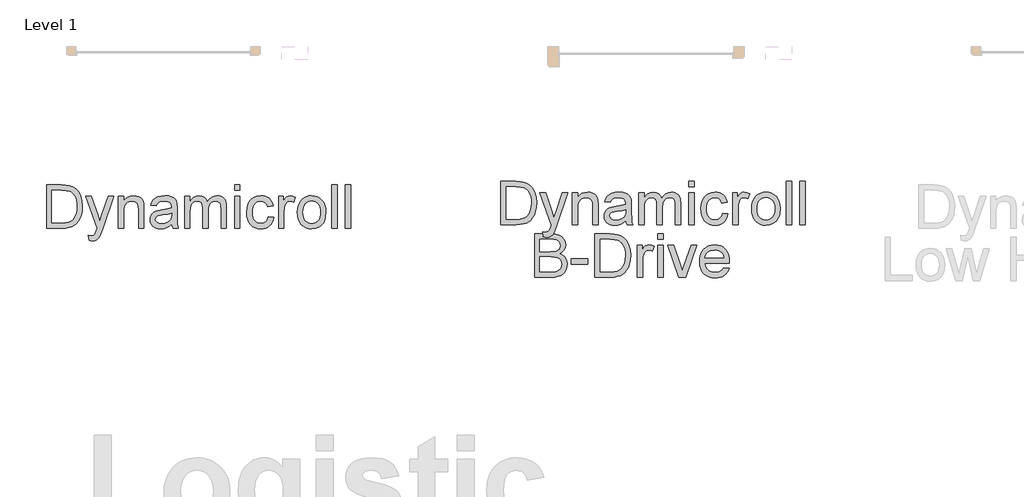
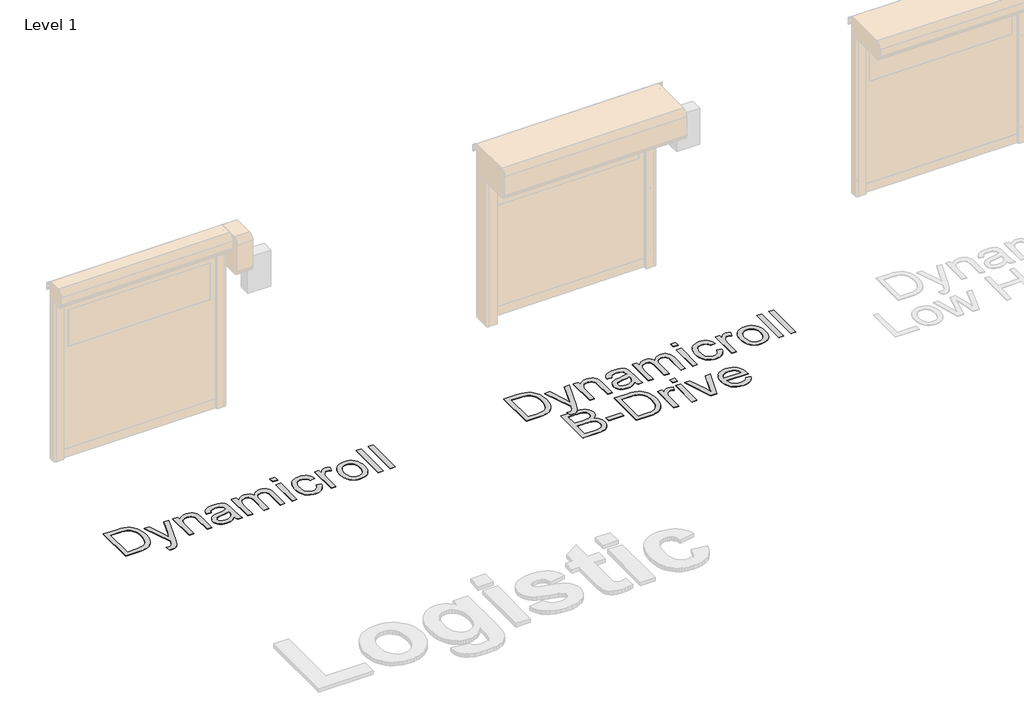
# One storey, part 8 of 17: 2 proxies.
"""IFC4 building model written with IfcOpenShell, lengths in millimetres."""

from ifc_helpers import new_model, si_unit, origin, origin_with_axes, place, context, project, spatial, polyline, outline, extrude, element, save

model = new_model("IFC4")

# Units and contexts
model_context = context("Model", 3, world=origin())
ifc_project = project(units=[si_unit("LENGTHUNIT", "METRE", prefix="MILLI")], contexts=[model_context])

# Site, building, storey
site = spatial("IfcSite", under=ifc_project)
building = spatial("IfcBuilding", under=site)
storey = spatial("IfcBuildingStorey", under=building, Name="Level 1", Elevation=0.0)

# Proxies
placement = place(None, origin())
element("IfcBuildingElementProxy", 1, Name="500mm", ObjectType="500mm", at=placement, inside=storey, context=model_context, shape_type="SweptSolid", body=[
    extrude(outline(polyline([(5402.5904997, 30395.6464997), (5402.5904997, 30897.9280504), (5575.8629195, 30897.9280504), (5627.6423103, 30896.1192973), (5665.5034989, 30890.6930378), (5705.5413228, 30876.7441789), (5739.3251526, 30854.7632296), (5757.9415144, 30836.7983256), (5774.0593444, 30816.5035022), (5787.6786424, 30793.8787594), (5798.7994085, 30768.9240974), (5813.6066588, 30712.9447205), (5818.5424089, 30649.4850763), (5815.2008142, 30595.5750356), (5805.1760298, 30548.1335867), (5789.908927, 30507.7432093), (5770.8403769, 30474.9863833), (5748.8900845, 30449.1273447), (5724.9777548, 30429.4303296), (5697.5245609, 30414.8223487), (5664.951676, 30404.2304129), (5627.1977862, 30397.792478), (5584.201578, 30395.6464997), (5402.5904997, 30395.6464997)]), holes=[polyline([(5465.3756936, 30458.4316935), (5576.4760561, 30458.4316935), (5622.4306487, 30460.7002991), (5657.2874677, 30467.5061161), (5683.5910304, 30478.4506054), (5703.8858538, 30493.1352284), (5725.6981904, 30520.3125108), (5742.0842676, 30555.4912266), (5752.3389782, 30598.8246599), (5755.7572151, 30650.466095), (5754.0825856, 30686.9170694), (5749.0586971, 30718.8921461), (5740.6855496, 30746.3913252), (5728.9631431, 30769.4146068), (5714.8418394, 30788.4831569), (5699.2720004, 30804.1181416), (5682.253626, 30816.3195612), (5663.7867163, 30825.0874154), (5627.6729671, 30832.6289963), (5574.7592735, 30835.1428566), (5465.3756936, 30835.1428566), (5465.3756936, 30458.4316935)])]), origin_with_axes(), (0.0, 0.0, 1.0), 5.0),
    extrude(outline(polyline([(5897.0239012, 30254.3798135), (5889.175752, 30314.8350881), (5921.0588583, 30309.3168581), (5937.8281459, 30311.0489692), (5950.8572999, 30316.2453024), (5961.0047116, 30324.5379757), (5969.1287723, 30335.5591071), (5986.2965987, 30381.7896112), (5991.201692, 30396.9954003), (5857.7831551, 30764.5095135), (5924.0019142, 30764.5095135), (5994.7578846, 30559.7218695), (6019.4059783, 30477.8068119), (6044.054072, 30550.1569376), (6116.7720797, 30764.5095135), (6182.5003295, 30764.5095135), (6054.1095132, 30386.8173318), (6020.754879, 30304.9022742), (6003.679023, 30278.7519957), (5984.3345614, 30260.6338074), (5961.8631029, 30250.0572001), (5935.4062561, 30246.5316643), (5917.2267541, 30248.4937016), (5897.0239012, 30254.3798135)])), origin_with_axes(), (0.0, 0.0, 1.0), 5.0),
    extrude(outline(polyline([(6234.4943182, 30395.6464997), (6234.4943182, 30764.5095135), (6297.279512, 30764.5095135), (6297.279512, 30713.0060342), (6319.0918486, 30738.9723717), (6345.2881124, 30757.5197556), (6375.8683032, 30768.6481859), (6410.8324212, 30772.3576627), (6441.780494, 30769.3686215), (6470.1227361, 30760.4014979), (6493.7591543, 30746.5752662), (6510.5897555, 30729.008901), (6522.0094258, 30707.7483873), (6529.413051, 30682.8397106), (6532.7239889, 30622.1391814), (6532.7239889, 30395.6464997), (6469.9387951, 30395.6464997), (6469.9387951, 30613.6778955), (6468.1300419, 30646.1434816), (6462.7037825, 30669.2280767), (6452.6943265, 30685.7674381), (6437.1359838, 30698.5973227), (6417.193714, 30706.8286823), (6394.0324767, 30709.5724689), (6374.9677588, 30708.031963), (6357.2596056, 30703.4104455), (6340.9080174, 30695.7079162), (6325.912994, 30684.9243752), (6313.3858456, 30669.8335492), (6304.4378825, 30649.2091648), (6299.0691046, 30623.0512221), (6297.279512, 30591.3597211), (6297.279512, 30395.6464997), (6234.4943182, 30395.6464997)])), origin_with_axes(), (0.0, 0.0, 1.0), 5.0),
    extrude(outline(polyline([(6854.4981074, 30442.7353951), (6824.5003963, 30417.0143122), (6793.6136372, 30400.1837109), (6761.1327227, 30390.8946906), (6726.3525457, 30387.7983504), (6698.3973462, 30389.660753), (6673.8833761, 30395.2479608), (6652.8106356, 30404.5599738), (6635.1791246, 30417.596792), (6621.2570903, 30433.530681), (6611.3127801, 30451.5339061), (6605.346194, 30471.6064675), (6603.357332, 30493.748365), (6606.3617016, 30519.7760162), (6615.3748105, 30543.4124344), (6629.2776842, 30563.6459441), (6646.9513484, 30579.4648699), (6667.7213527, 30591.4210348), (6690.9132468, 30600.0662617), (6745.2371548, 30609.5085662), (6809.432563, 30619.4413801), (6854.1302254, 30631.0909766), (6854.4981074, 30645.0704924), (6850.1754939, 30673.0908377), (6837.2076536, 30691.4236238), (6824.1325143, 30699.3637435), (6808.2062896, 30705.0352576), (6767.8005838, 30709.5724689), (6730.3992477, 30706.5527708), (6704.279626, 30697.4936767), (6686.4680061, 30680.7397175), (6673.9906751, 30654.6354243), (6611.2054812, 30662.4835735), (6622.1039853, 30696.8192264), (6638.3674352, 30723.7972394), (6661.5133441, 30744.4292879), (6693.0592251, 30759.7270476), (6731.6408494, 30769.2000089), (6775.8939877, 30772.3576627), (6818.3383729, 30769.5678909), (6851.9842471, 30761.1985755), (6877.3527763, 30748.6139456), (6894.9651268, 30733.1782302), (6906.6453802, 30714.0943517), (6914.2176179, 30690.5652325), (6917.2833012, 30635.6281879), (6917.2833012, 30557.5145775), (6920.4716118, 30448.437566), (6925.1927641, 30421.4748814), (6932.9795997, 30395.6464997), (6870.1944058, 30395.6464997), (6860.1389646, 30417.4741647), (6854.4981074, 30442.7353951)]), holes=[polyline([(6854.4981074, 30568.3057827), (6812.3143052, 30557.8518027), (6753.2079314, 30549.0532917), (6699.1905917, 30538.8752231), (6685.1344338, 30531.916122), (6674.7264391, 30522.3205333), (6668.2885041, 30510.824221), (6666.1425258, 30498.162949), (6670.8176929, 30479.4929377), (6684.8431939, 30464.1951781), (6707.9124607, 30453.9864527), (6739.7189249, 30450.5835443), (6773.4414411, 30454.3390063), (6803.2398827, 30465.6053924), (6827.397467, 30482.2060675), (6844.1974115, 30501.9643963), (6851.6470219, 30522.3205333), (6854.1302254, 30550.5248196), (6854.4981074, 30568.3057827)])]), origin_with_axes(), (0.0, 0.0, 1.0), 5.0),
    extrude(outline(polyline([(7003.6129427, 30395.6464997), (7003.6129427, 30764.5095135), (7066.3981366, 30764.5095135), (7066.3981366, 30703.8089843), (7085.2827457, 30731.6913738), (7109.5629574, 30753.5343673), (7138.4110371, 30767.6518389), (7170.9992505, 30772.3576627), (7205.9173833, 30767.5598684), (7233.9070717, 30753.1664853), (7254.8150318, 30730.1278754), (7268.4879793, 30699.3944004), (7291.373305, 30731.3158276), (7317.4775983, 30754.1168471), (7346.800859, 30767.7974588), (7379.3430871, 30772.3576627), (7404.477858, 30770.4607712), (7426.5392814, 30764.7700966), (7445.5273573, 30755.2856389), (7461.4420857, 30742.0073981), (7474.0228836, 30724.7820901), (7483.0091677, 30703.4564307), (7488.4009382, 30678.0304199), (7490.198195, 30648.5040577), (7490.198195, 30395.6464997), (7427.4130012, 30395.6464997), (7427.4130012, 30621.5260447), (7425.9568016, 30652.8419995), (7421.5882029, 30673.949229), (7413.4028285, 30688.4039257), (7400.4963019, 30699.7622823), (7383.8956268, 30707.1199223), (7364.6278073, 30709.5724689), (7346.8353479, 30708.0013062), (7330.6140512, 30703.2878181), (7315.9639172, 30695.4320047), (7302.8849458, 30684.4338659), (7292.1282296, 30669.9715049), (7284.4448608, 30651.7230251), (7279.8348396, 30629.6884265), (7278.2981658, 30603.8677089), (7278.2981658, 30395.6464997), (7215.512972, 30395.6464997), (7215.512972, 30628.5158026), (7211.8801373, 30664.0164152), (7200.9816332, 30689.3389592), (7192.5548362, 30698.1911197), (7181.8057842, 30704.5140915), (7153.3409148, 30709.5724689), (7129.1526736, 30706.2002173), (7106.8651561, 30696.0834624), (7088.4710563, 30679.4674589), (7075.9630685, 30656.5974616), (7068.7893696, 30624.8676395), (7066.3981366, 30581.6721619), (7066.3981366, 30395.6464997), (7003.6129427, 30395.6464997)])), origin_with_axes(), (0.0, 0.0, 1.0), 5.0),
    extrude(outline(polyline([(7584.3759858, 30835.1428566), (7584.3759858, 30897.9280504), (7647.1611796, 30897.9280504), (7647.1611796, 30835.1428566), (7584.3759858, 30835.1428566)])), origin_with_axes(), (0.0, 0.0, 1.0), 5.0),
    extrude(outline(polyline([(7584.3759858, 30395.6464997), (7584.3759858, 30764.5095135), (7647.1611796, 30764.5095135), (7647.1611796, 30395.6464997), (7584.3759858, 30395.6464997)])), origin_with_axes(), (0.0, 0.0, 1.0), 5.0),
    extrude(outline(polyline([(7976.7834473, 30529.0650366), (8039.5686412, 30521.2168874), (8032.7398316, 30491.5908904), (8022.0635896, 30465.3754662), (8007.539915, 30442.5706146), (7989.1688078, 30423.1763356), (7967.7243532, 30407.6984671), (7943.9806361, 30396.6428467), (7917.9376565, 30390.0094745), (7889.5954145, 30387.7983504), (7854.3822097, 30390.8831943), (7822.8095039, 30400.1377257), (7794.877297, 30415.5619448), (7770.585589, 30437.1558515), (7750.9230628, 30464.5132427), (7736.8784012, 30497.2279156), (7728.4516043, 30535.29987), (7725.6426719, 30578.7291059), (7730.4404663, 30634.601184), (7744.8338494, 30683.0236516), (7755.6863682, 30703.9737648), (7769.0527474, 30722.126442), (7784.9329868, 30737.4816832), (7803.3270866, 30750.0394884), (7844.3306006, 30766.7781191), (7888.7370231, 30772.3576627), (7916.592588, 30770.4416107), (7941.7886725, 30764.6934545), (7964.3252768, 30755.1131942), (7984.2024009, 30741.7008298), (8001.0828195, 30724.7629296), (8014.6293076, 30704.606062), (8024.841865, 30681.2302268), (8031.7204919, 30654.6354243), (7968.9352981, 30646.787275), (7957.5462846, 30674.1791553), (7939.8113068, 30693.8148568), (7916.7113832, 30705.6330659), (7889.2275325, 30709.5724689), (7867.8942088, 30707.6334242), (7848.6532141, 30701.8162902), (7831.5045482, 30692.1210667), (7816.4482111, 30678.547754), (7804.18931, 30660.7821193), (7795.4329521, 30638.5099302), (7790.1791374, 30611.7311866), (7788.4278658, 30580.4458886), (7790.1408163, 30548.6892418), (7795.2796679, 30521.6000978), (7803.8444206, 30499.1784566), (7815.8350744, 30481.4243182), (7830.5925074, 30467.9314796), (7847.4575976, 30458.2937378), (7866.4303451, 30452.5110927), (7887.5107498, 30450.5835443), (7920.0223211, 30455.3966671), (7946.6784374, 30469.8360354), (7957.4581463, 30480.7575321), (7966.0688842, 30494.2695312), (7976.7834473, 30529.0650366)])), origin_with_axes(), (0.0, 0.0, 1.0), 5.0),
    extrude(outline(polyline([(8094.5056858, 30395.6464997), (8094.5056858, 30764.5095135), (8149.4427304, 30764.5095135), (8149.4427304, 30709.9403509), (8169.7375538, 30741.5782025), (8188.4382219, 30760.2175569), (8207.2002036, 30769.3226363), (8227.678968, 30772.3576627), (8258.9489376, 30767.5138831), (8290.7094165, 30752.9825443), (8269.7401428, 30696.6965991), (8247.6672231, 30706.3535014), (8225.5943034, 30709.5724689), (8206.84765, 30706.4761288), (8190.0936909, 30697.1871084), (8176.5586991, 30682.4105149), (8167.4689481, 30662.8514555), (8159.8353967, 30627.7800386), (8157.2908796, 30589.5203111), (8157.2908796, 30395.6464997), (8094.5056858, 30395.6464997)])), origin_with_axes(), (0.0, 0.0, 1.0), 5.0),
    extrude(outline(polyline([(8314.2538642, 30580.0780066), (8317.6491085, 30627.8490165), (8327.8348412, 30669.0134789), (8344.8110624, 30703.5713938), (8368.5777722, 30731.5227613), (8392.5054303, 30749.3880307), (8418.9162919, 30762.1489374), (8447.8103569, 30769.8054814), (8479.1876254, 30772.3576627), (8513.8260145, 30769.2498263), (8545.1458014, 30759.926317), (8573.1469862, 30744.3871348), (8597.8295688, 30722.6322797), (8617.9749402, 30695.3975158), (8632.3644911, 30663.4186069), (8640.9982217, 30626.6955532), (8643.8761319, 30585.2283545), (8638.7870976, 30521.7993672), (8632.4258048, 30495.7640518), (8623.5199948, 30473.5148553), (8612.1807988, 30454.2968532), (8598.5193476, 30437.3551209), (8582.5356413, 30422.6896584), (8564.2296799, 30410.3004658), (8523.5020774, 30393.4238793), (8479.1876254, 30387.7983504), (8444.0433985, 30390.8946906), (8412.4323717, 30400.1837109), (8384.3545448, 30415.6654116), (8359.809918, 30437.3397925), (8339.8791444, 30464.8389716), (8325.6428777, 30497.795067), (8317.1011176, 30536.2080787), (8314.2538642, 30580.0780066)]), holes=[polyline([(8377.0390581, 30580.2006339), (8378.8554754, 30549.7469025), (8384.3047275, 30523.3781941), (8393.3868142, 30501.0945086), (8406.1017357, 30482.8958462), (8421.5681079, 30468.7592141), (8438.9045469, 30458.6616198), (8458.1110528, 30452.6030632), (8479.1876254, 30450.5835443), (8500.1568991, 30452.6145595), (8519.2867629, 30458.707605), (8536.5772166, 30468.8626809), (8552.0282604, 30483.0797872), (8564.7431819, 30501.4585585), (8573.8252687, 30524.0986297), (8579.2745207, 30551.0000005), (8581.0909381, 30582.1626712), (8579.2630244, 30611.6507124), (8573.7792834, 30637.3296421), (8564.6397151, 30659.1994603), (8551.8443194, 30677.260167), (8536.3357941, 30691.3967991), (8519.0568366, 30701.4943934), (8500.0074471, 30707.55295), (8479.1876254, 30709.5724689), (8458.1110528, 30707.5606142), (8438.9045469, 30701.5250502), (8421.5681079, 30691.4657769), (8406.1017357, 30677.3827943), (8393.3868142, 30659.2377813), (8384.3047275, 30636.9924169), (8378.8554754, 30610.6467011), (8377.0390581, 30580.2006339)])]), origin_with_axes(), (0.0, 0.0, 1.0), 5.0),
    extrude(outline(polyline([(8714.509475, 30395.6464997), (8714.509475, 30897.9280504), (8777.2946688, 30897.9280504), (8777.2946688, 30395.6464997), (8714.509475, 30395.6464997)])), origin_with_axes(), (0.0, 0.0, 1.0), 5.0),
    extrude(outline(polyline([(8871.4724596, 30395.6464997), (8871.4724596, 30897.9280504), (8934.2576534, 30897.9280504), (8934.2576534, 30395.6464997), (8871.4724596, 30395.6464997)])), origin_with_axes(), (0.0, 0.0, 1.0), 5.0),
    extrude(outline(polyline([(5794.9979613, 29785.7724104), (5794.9979613, 30288.0539612), (5986.6644807, 30288.0539612), (6039.378905, 30284.3598128), (6080.5357032, 30273.2773677), (6112.0815843, 30254.5307144), (6135.9632571, 30227.8439413), (6151.0004337, 30196.4513444), (6156.0128259, 30163.5872195), (6151.7975113, 30133.3442538), (6139.1515677, 30104.9100413), (6117.9830246, 30080.0320213), (6088.1999114, 30060.4576335), (6107.1496663, 30052.379558), (6123.777166, 30041.8795928), (6138.0824107, 30028.9577377), (6150.0654003, 30013.6139928), (6166.2981933, 29977.5309004), (6171.7091243, 29935.5003825), (6168.0149759, 29900.4749509), (6156.9325308, 29867.9940364), (6140.3931695, 29840.3722299), (6120.3282723, 29819.9241223), (6095.7568207, 29805.116872), (6065.697796, 29794.4176373), (6029.1701796, 29787.9337172), (5985.1929528, 29785.7724104), (5794.9979613, 29785.7724104)]), holes=[polyline([(5857.7831551, 30084.0020812), (5972.4397103, 30084.0020812), (6012.5388477, 30085.3509818), (6039.3942334, 30089.3976838), (6062.8313822, 30098.7020326), (6079.6773119, 30112.6355632), (6089.840052, 30130.9836777), (6093.227632, 30153.5317783), (6090.0699782, 30175.420757), (6080.5970168, 30194.4893071), (6065.2379435, 30209.3731995), (6044.421954, 30218.7082051), (6012.4775341, 30223.6286268), (5963.7331697, 30225.2687673), (5857.7831551, 30225.2687673), (5857.7831551, 30084.0020812)]), polyline([(5857.7831551, 29848.5576043), (5986.5418534, 29848.5576043), (6033.1402395, 29851.0101509), (6054.7686351, 29856.4517388), (6072.5649266, 29864.6830984), (6087.0349518, 29876.4706507), (6098.6845483, 29892.5808164), (6106.3640849, 29912.29316), (6108.9239305, 29934.8872458), (6105.9195608, 29961.1294948), (6096.906452, 29983.6929238), (6081.1641682, 30001.3359312), (6057.9722741, 30012.8169151), (6025.1234777, 30019.1168943), (5980.4104868, 30021.2168874), (5857.7831551, 30021.2168874), (5857.7831551, 29848.5576043)])]), origin_with_axes(), (0.0, 0.0, 1.0), 5.0),
    extrude(outline(polyline([(6218.7980197, 29934.8872458), (6218.7980197, 29997.6724397), (6415.0017505, 29997.6724397), (6415.0017505, 29934.8872458), (6218.7980197, 29934.8872458)])), origin_with_axes(), (0.0, 0.0, 1.0), 5.0),
    extrude(outline(polyline([(6493.4832428, 29785.7724104), (6493.4832428, 30288.0539612), (6666.7556625, 30288.0539612), (6718.5350533, 30286.245208), (6756.396242, 30280.8189486), (6796.4340658, 30266.8700896), (6830.2178957, 30244.8891404), (6848.8342575, 30226.9242363), (6864.9520874, 30206.6294129), (6878.5713854, 30184.0046702), (6889.6921516, 30159.0500082), (6904.4994019, 30103.0706313), (6909.435152, 30039.6109871), (6906.0935572, 29985.7009464), (6896.0687728, 29938.2594974), (6880.80167, 29897.8691201), (6861.7331199, 29865.1122941), (6839.7828276, 29839.2532555), (6815.8704979, 29819.5562403), (6788.417304, 29804.9482594), (6755.844419, 29794.3563237), (6718.0905292, 29787.9183887), (6675.094321, 29785.7724104), (6493.4832428, 29785.7724104)]), holes=[polyline([(6556.2684366, 29848.5576043), (6667.3687991, 29848.5576043), (6713.3233917, 29850.8262099), (6748.1802108, 29857.6320268), (6774.4837734, 29868.5765162), (6794.7785968, 29883.2611392), (6816.5909334, 29910.4384216), (6832.9770106, 29945.6171373), (6843.2317213, 29988.9505707), (6846.6499581, 30040.5920058), (6844.9753286, 30077.0429801), (6839.9514401, 30109.0180569), (6831.5782926, 30136.517236), (6819.8558861, 30159.5405175), (6805.7345825, 30178.6090676), (6790.1647435, 30194.2440524), (6773.1463691, 30206.4454719), (6754.6794593, 30215.2133261), (6718.5657101, 30222.754907), (6665.6520165, 30225.2687673), (6556.2684366, 30225.2687673), (6556.2684366, 29848.5576043)])]), origin_with_axes(), (0.0, 0.0, 1.0), 5.0),
    extrude(outline(polyline([(6987.9166443, 29785.7724104), (6987.9166443, 30154.6354243), (7042.8536889, 30154.6354243), (7042.8536889, 30100.0662617), (7063.1485123, 30131.7041132), (7081.8491804, 30150.3434677), (7100.6111621, 30159.448547), (7121.0899265, 30162.4835735), (7152.3598961, 30157.6397939), (7184.120375, 30143.1084551), (7163.1511013, 30086.8225098), (7141.0781816, 30096.4794122), (7119.0052619, 30099.6983797), (7100.2586086, 30096.6020395), (7083.5046494, 30087.3130192), (7069.9696576, 30072.5364257), (7060.8799067, 30052.9773663), (7053.2463553, 30017.9059494), (7050.7018381, 29979.6462219), (7050.7018381, 29785.7724104), (6987.9166443, 29785.7724104)])), origin_with_axes(), (0.0, 0.0, 1.0), 5.0),
    extrude(outline(polyline([(7223.3611212, 30225.2687673), (7223.3611212, 30288.0539612), (7286.146315, 30288.0539612), (7286.146315, 30225.2687673), (7223.3611212, 30225.2687673)])), origin_with_axes(), (0.0, 0.0, 1.0), 5.0),
    extrude(outline(polyline([(7223.3611212, 29785.7724104), (7223.3611212, 30154.6354243), (7286.146315, 30154.6354243), (7286.146315, 29785.7724104), (7223.3611212, 29785.7724104)])), origin_with_axes(), (0.0, 0.0, 1.0), 5.0),
    extrude(outline(polyline([(7470.8230766, 29785.7724104), (7341.0833596, 30154.6354243), (7407.5473734, 30154.6354243), (7486.1514931, 29933.6609725), (7509.8185681, 29859.3488095), (7532.9951338, 29929.4916432), (7612.0897628, 30154.6354243), (7678.5537766, 30154.6354243), (7550.4082149, 29785.7724104), (7470.8230766, 29785.7724104)])), origin_with_axes(), (0.0, 0.0, 1.0), 5.0),
    extrude(outline(polyline([(7991.7439818, 29895.6464997), (8053.3029023, 29887.7983504), (8043.8644299, 29863.1425926), (8031.1226837, 29841.4145622), (8015.0776637, 29822.6142594), (7995.7293701, 29806.7416842), (7973.277072, 29794.1340616), (7947.9200391, 29785.128617), (7919.6582712, 29779.7253501), (7888.4917685, 29777.9242612), (7849.534598, 29781.0320977), (7814.8233989, 29790.355607), (7784.3581712, 29805.8947892), (7758.1389148, 29827.6496442), (7737.054678, 29855.0146997), (7721.9945088, 29887.3844832), (7712.9584073, 29924.7589946), (7709.9463735, 29967.1382341), (7712.9890641, 30010.9545125), (7722.1171362, 30049.5744578), (7737.3305895, 30082.9980699), (7758.6294242, 30111.2253488), (7784.7797027, 30133.6508221), (7814.5474874, 30149.6690173), (7847.9327785, 30159.2799345), (7884.9355759, 30162.4835735), (7920.7465888, 30159.2875987), (7953.1317007, 30149.6996742), (7982.0909115, 30133.7198), (8007.6242212, 30111.3479762), (8028.4670355, 30083.1820109), (8043.35476, 30049.8197125), (8052.2873947, 30011.2610809), (8055.2649396, 29967.5061161), (8054.8970576, 29950.5835443), (7772.7315673, 29950.5835443), (7776.3682341, 29925.5292476), (7783.5994146, 29903.5866194), (7794.4251087, 29884.7556598), (7808.8453165, 29869.0363687), (7826.0629603, 29856.643344), (7845.2809625, 29847.7911835), (7866.4993229, 29842.4798872), (7889.7180418, 29840.7094551), (7923.1339897, 29843.9897362), (7951.2769623, 29853.8305796), (7974.1469597, 29870.8451218), (7991.7439818, 29895.6464997)]), holes=[polyline([(7772.7315673, 30013.3687381), (7992.4797458, 30013.3687381), (7983.9878031, 30046.5394314), (7967.3411428, 30070.26782), (7950.2193016, 30083.1436899), (7930.7368843, 30092.3407398), (7908.8938908, 30097.8589697), (7884.6903212, 30099.6983797), (7842.3685633, 30093.8275962), (7823.955303, 30086.4891168), (7807.3737885, 30076.2152456), (7793.4594185, 30063.4811637), (7783.0475916, 30048.7620517), (7776.1383079, 30032.0579099), (7772.7315673, 30013.3687381)])]), origin_with_axes(), (0.0, 0.0, 1.0), 5.0),
])
element("IfcBuildingElementProxy", 2, Name="500mm", ObjectType="500mm", at=placement, inside=storey, context=model_context, shape_type="SweptSolid", body=[
    extrude(outline(polyline([(132.2974666, 30354.3905971), (132.2974666, 30856.6721479), (305.5698863, 30856.6721479), (357.3492772, 30854.8633947), (395.2104658, 30849.4371353), (435.2482896, 30835.4882763), (469.0321195, 30813.5073271), (487.6484813, 30795.542423), (503.7663112, 30775.2475996), (517.3856093, 30752.6228569), (528.5063754, 30727.6681949), (543.3136257, 30671.688818), (548.2493758, 30608.2291738), (544.907781, 30554.3191331), (534.8829967, 30506.8776841), (519.6158939, 30466.4873067), (500.5473438, 30433.7304807), (478.5970514, 30407.8714422), (454.6847217, 30388.174427), (427.2315278, 30373.5664461), (394.6586428, 30362.9745103), (356.9047531, 30356.5365754), (313.9085449, 30354.3905971), (132.2974666, 30354.3905971)]), holes=[polyline([(195.0826604, 30417.175791), (306.183023, 30417.175791), (352.1376156, 30419.4443966), (386.9944346, 30426.2502135), (413.2979973, 30437.1947029), (433.5928207, 30451.8793258), (455.4051573, 30479.0566082), (471.7912345, 30514.235324), (482.0459451, 30557.5687574), (485.464182, 30609.2101924), (483.7895525, 30645.6611668), (478.765664, 30677.6362436), (470.3925165, 30705.1354227), (458.67011, 30728.1587042), (444.5488063, 30747.2272543), (428.9789673, 30762.8622391), (411.9605929, 30775.0636586), (393.4936832, 30783.8315128), (357.379934, 30791.3730937), (304.4662403, 30793.886954), (195.0826604, 30793.886954), (195.0826604, 30417.175791)])]), origin_with_axes(), (0.0, 0.0, 1.0), 5.0),
    extrude(outline(polyline([(626.7308681, 30213.123911), (618.8827189, 30273.5791855), (650.7658251, 30268.0609556), (667.5351128, 30269.7930666), (680.5642668, 30274.9893998), (690.7116785, 30283.2820731), (698.8357392, 30294.3032046), (716.0035656, 30340.5337086), (720.9086589, 30355.7394978), (587.490122, 30723.253611), (653.7088811, 30723.253611), (724.4648515, 30518.465967), (749.1129452, 30436.5509094), (773.7610389, 30508.9010351), (846.4790466, 30723.253611), (912.2072964, 30723.253611), (783.8164801, 30345.5614292), (750.4618458, 30263.6463716), (733.3859899, 30237.4960932), (714.0415283, 30219.3779049), (691.5700698, 30208.8012975), (665.113223, 30205.2757617), (646.933721, 30207.2377991), (626.7308681, 30213.123911)])), origin_with_axes(), (0.0, 0.0, 1.0), 5.0),
    extrude(outline(polyline([(964.201285, 30354.3905971), (964.201285, 30723.253611), (1026.9864789, 30723.253611), (1026.9864789, 30671.7501316), (1048.7988155, 30697.7164691), (1074.9950792, 30716.263853), (1105.5752701, 30727.3922834), (1140.5393881, 30731.1017602), (1171.4874609, 30728.112719), (1199.8297029, 30719.1455953), (1223.4661211, 30705.3193637), (1240.2967224, 30687.7529984), (1251.7163927, 30666.4924848), (1259.1200178, 30641.583808), (1262.4309558, 30580.8832788), (1262.4309558, 30354.3905971), (1199.6457619, 30354.3905971), (1199.6457619, 30572.4219929), (1197.8370088, 30604.887579), (1192.4107494, 30627.9721742), (1182.4012934, 30644.5115356), (1166.8429507, 30657.3414202), (1146.9006809, 30665.5727798), (1123.7394436, 30668.3165663), (1104.6747256, 30666.7760605), (1086.9665725, 30662.1545429), (1070.6149842, 30654.4520136), (1055.6199608, 30643.6684727), (1043.0928125, 30628.5776467), (1034.1448494, 30607.9532623), (1028.7760715, 30581.7953196), (1026.9864789, 30550.1038186), (1026.9864789, 30354.3905971), (964.201285, 30354.3905971)])), origin_with_axes(), (0.0, 0.0, 1.0), 5.0),
    extrude(outline(polyline([(1584.2050742, 30401.4794925), (1554.2073632, 30375.7584097), (1523.320604, 30358.9278084), (1490.8396895, 30349.638788), (1456.0595126, 30346.5424479), (1428.1043131, 30348.4048505), (1403.590343, 30353.9920583), (1382.5176025, 30363.3040713), (1364.8860914, 30376.3408895), (1350.9640572, 30392.2747784), (1341.019747, 30410.2780036), (1335.0531609, 30430.3505649), (1333.0642989, 30452.4924625), (1336.0686685, 30478.5201137), (1345.0817774, 30502.1565319), (1358.9846511, 30522.3900416), (1376.6583153, 30538.2089674), (1397.4283196, 30550.1651322), (1420.6202137, 30558.8103591), (1474.9441217, 30568.2526637), (1539.1395298, 30578.1854775), (1583.8371922, 30589.835074), (1584.2050742, 30603.8145899), (1579.8824608, 30631.8349352), (1566.9146205, 30650.1677212), (1553.8394812, 30658.107841), (1537.9132565, 30663.7793551), (1497.5075507, 30668.3165663), (1460.1062145, 30665.2968683), (1433.9865929, 30656.2377742), (1416.1749729, 30639.483815), (1403.6976419, 30613.3795217), (1340.9124481, 30621.227671), (1351.8109522, 30655.5633238), (1368.0744021, 30682.5413368), (1391.2203109, 30703.1733854), (1422.766192, 30718.471145), (1461.3478163, 30727.9441064), (1505.6009546, 30731.1017602), (1548.0453398, 30728.3119884), (1581.6912139, 30719.942673), (1607.0597432, 30707.3580431), (1624.6720937, 30691.9223277), (1636.3523471, 30672.8384492), (1643.9245848, 30649.3093299), (1646.9902681, 30594.3722853), (1646.9902681, 30516.258675), (1650.1785787, 30407.1816634), (1654.899731, 30380.2189789), (1662.6865665, 30354.3905971), (1599.9013727, 30354.3905971), (1589.8459315, 30376.2182622), (1584.2050742, 30401.4794925)]), holes=[polyline([(1584.2050742, 30527.0498802), (1542.0212721, 30516.5959002), (1482.9148982, 30507.7973891), (1428.8975586, 30497.6193206), (1414.8414007, 30490.6602195), (1404.4334059, 30481.0646308), (1397.995471, 30469.5683184), (1395.8494927, 30456.9070464), (1400.5246597, 30438.2370352), (1414.5501608, 30422.9392756), (1437.6194276, 30412.7305502), (1469.4258917, 30409.3276417), (1503.148408, 30413.0831038), (1532.9468496, 30424.3494899), (1557.1044339, 30440.9501649), (1573.9043784, 30460.7084937), (1581.3539888, 30481.0646308), (1583.8371922, 30509.2689171), (1584.2050742, 30527.0498802)])]), origin_with_axes(), (0.0, 0.0, 1.0), 5.0),
    extrude(outline(polyline([(1733.3199096, 30354.3905971), (1733.3199096, 30723.253611), (1796.1051035, 30723.253611), (1796.1051035, 30662.5530817), (1814.9897125, 30690.4354713), (1839.2699242, 30712.2784648), (1868.118004, 30726.3959363), (1900.7062174, 30731.1017602), (1935.6243501, 30726.3039658), (1963.6140386, 30711.9105828), (1984.5219987, 30688.8719728), (1998.1949461, 30658.1384978), (2021.0802719, 30690.0599251), (2047.1845652, 30712.8609446), (2076.5078259, 30726.5415563), (2109.050054, 30731.1017602), (2134.1848249, 30729.2048686), (2156.2462483, 30723.514194), (2175.2343242, 30714.0297363), (2191.1490526, 30700.7514956), (2203.7298504, 30683.5261876), (2212.7161346, 30662.2005282), (2218.1079051, 30636.7745174), (2219.9051619, 30607.2481551), (2219.9051619, 30354.3905971), (2157.1199681, 30354.3905971), (2157.1199681, 30580.2701422), (2155.6637685, 30611.586097), (2151.2951698, 30632.6933265), (2143.1097954, 30647.1480232), (2130.2032687, 30658.5063798), (2113.6025937, 30665.8640197), (2094.3347742, 30668.3165663), (2076.5423148, 30666.7454037), (2060.3210181, 30662.0319156), (2045.670884, 30654.1761022), (2032.5919127, 30643.1779633), (2021.8351964, 30628.7156024), (2014.1518277, 30610.4671226), (2009.5418064, 30588.4325239), (2008.0051327, 30562.6118064), (2008.0051327, 30354.3905971), (1945.2199388, 30354.3905971), (1945.2199388, 30587.2599001), (1941.5871041, 30622.7605126), (1930.6886, 30648.0830566), (1922.2618031, 30656.9352171), (1911.512751, 30663.2581889), (1883.0478817, 30668.3165663), (1858.8596405, 30664.9443147), (1836.5721229, 30654.8275599), (1818.1780232, 30638.2115564), (1805.6700353, 30615.341559), (1798.4963364, 30583.611737), (1796.1051035, 30540.4162594), (1796.1051035, 30354.3905971), (1733.3199096, 30354.3905971)])), origin_with_axes(), (0.0, 0.0, 1.0), 5.0),
    extrude(outline(polyline([(2314.0829527, 30793.886954), (2314.0829527, 30856.6721479), (2376.8681465, 30856.6721479), (2376.8681465, 30793.886954), (2314.0829527, 30793.886954)])), origin_with_axes(), (0.0, 0.0, 1.0), 5.0),
    extrude(outline(polyline([(2314.0829527, 30354.3905971), (2314.0829527, 30723.253611), (2376.8681465, 30723.253611), (2376.8681465, 30354.3905971), (2314.0829527, 30354.3905971)])), origin_with_axes(), (0.0, 0.0, 1.0), 5.0),
    extrude(outline(polyline([(2706.4904142, 30487.809134), (2769.275608, 30479.9609848), (2762.4467985, 30450.3349879), (2751.7705564, 30424.1195636), (2737.2468818, 30401.314712), (2718.8757747, 30381.9204331), (2697.4313201, 30366.4425646), (2673.687603, 30355.3869442), (2647.6446234, 30348.753572), (2619.3023813, 30346.5424479), (2584.0891766, 30349.6272917), (2552.5164708, 30358.8818231), (2524.5842639, 30374.3060422), (2500.2925559, 30395.8999489), (2480.6300297, 30423.2573402), (2466.5853681, 30455.972013), (2458.1585711, 30494.0439674), (2455.3496388, 30537.4732034), (2460.1474332, 30593.3452814), (2474.5408162, 30641.767749), (2485.3933351, 30662.7178622), (2498.7597142, 30680.8705394), (2514.6399537, 30696.2257806), (2533.0340535, 30708.7835858), (2574.0375675, 30725.5222166), (2618.44399, 30731.1017602), (2646.2995548, 30729.1857081), (2671.4956394, 30723.437552), (2694.0322437, 30713.8572917), (2713.9093678, 30700.4449273), (2730.7897864, 30683.5070271), (2744.3362744, 30663.3501594), (2754.5488319, 30639.9743243), (2761.4274588, 30613.3795217), (2698.642265, 30605.5313725), (2687.2532515, 30632.9232527), (2669.5182737, 30652.5589542), (2646.4183501, 30664.3771633), (2618.9344993, 30668.3165663), (2597.6011757, 30666.3775217), (2578.360181, 30660.5603876), (2561.211515, 30650.8651642), (2546.155178, 30637.2918514), (2533.8962769, 30619.5262167), (2525.139919, 30597.2540276), (2519.8861042, 30570.475284), (2518.1348327, 30539.189986), (2519.8477832, 30507.4333392), (2524.9866348, 30480.3441952), (2533.5513875, 30457.922554), (2545.5420413, 30440.1684157), (2560.2994743, 30426.6755771), (2577.1645645, 30417.0378352), (2596.1373119, 30411.2551901), (2617.2177167, 30409.3276417), (2649.729288, 30414.1407645), (2676.3854043, 30428.5801328), (2687.1651131, 30439.5016295), (2695.7758511, 30453.0136287), (2706.4904142, 30487.809134)])), origin_with_axes(), (0.0, 0.0, 1.0), 5.0),
    extrude(outline(polyline([(2824.2126526, 30354.3905971), (2824.2126526, 30723.253611), (2879.1496973, 30723.253611), (2879.1496973, 30668.6844483), (2899.4445207, 30700.3222999), (2918.1451887, 30718.9616543), (2936.9071705, 30728.0667337), (2957.3859349, 30731.1017602), (2988.6559045, 30726.2579806), (3020.4163834, 30711.7266418), (2999.4471097, 30655.4406965), (2977.37419, 30665.0975989), (2955.3012703, 30668.3165663), (2936.5546169, 30665.2202262), (2919.8006577, 30655.9312058), (2906.265666, 30641.1546124), (2897.175915, 30621.595553), (2889.5423636, 30586.5241361), (2886.9978465, 30548.2644086), (2886.9978465, 30354.3905971), (2824.2126526, 30354.3905971)])), origin_with_axes(), (0.0, 0.0, 1.0), 5.0),
    extrude(outline(polyline([(3043.9608311, 30538.822104), (3047.3560753, 30586.593114), (3057.5418081, 30627.7575764), (3074.5180293, 30662.3154913), (3098.2847391, 30690.2668587), (3122.2123972, 30708.1321281), (3148.6232587, 30720.8930348), (3177.5173238, 30728.5495788), (3208.8945923, 30731.1017602), (3243.5329814, 30727.9939237), (3274.8527683, 30718.6704144), (3302.8539531, 30703.1312322), (3327.5365357, 30681.3763772), (3347.6819071, 30654.1416132), (3362.071458, 30622.1627044), (3370.7051886, 30585.4396506), (3373.5830988, 30543.972452), (3368.4940645, 30480.5434646), (3362.1327717, 30454.5081493), (3353.2269617, 30432.2589528), (3341.8877656, 30413.0409506), (3328.2263145, 30396.0992183), (3312.2426082, 30381.4337559), (3293.9366468, 30369.0445633), (3253.2090443, 30352.1679767), (3208.8945923, 30346.5424479), (3173.7503654, 30349.638788), (3142.1393386, 30358.9278084), (3114.0615117, 30374.409509), (3089.5168848, 30396.0838899), (3069.5861113, 30423.583069), (3055.3498445, 30456.5391644), (3046.8080845, 30494.9521761), (3043.9608311, 30538.822104)]), holes=[polyline([(3106.7460249, 30538.9447314), (3108.5624423, 30508.491), (3114.0116943, 30482.1222915), (3123.0937811, 30459.8386061), (3135.8087026, 30441.6399436), (3151.2750748, 30427.5033116), (3168.6115138, 30417.4057172), (3187.8180196, 30411.3471606), (3208.8945923, 30409.3276417), (3229.863866, 30411.3586569), (3248.9937297, 30417.4517025), (3266.2841835, 30427.6067784), (3281.7352273, 30441.8238846), (3294.4501488, 30460.202656), (3303.5322355, 30482.8427271), (3308.9814876, 30509.744098), (3310.7979049, 30540.9067687), (3308.9699913, 30570.3948099), (3303.4862503, 30596.0737395), (3294.346682, 30617.9435577), (3281.5512863, 30636.0042644), (3266.042761, 30650.1408965), (3248.7638035, 30660.2384909), (3229.7144139, 30666.2970475), (3208.8945923, 30668.3165663), (3187.8180196, 30666.3047117), (3168.6115138, 30660.2691477), (3151.2750748, 30650.2098744), (3135.8087026, 30636.1268918), (3123.0937811, 30617.9818788), (3114.0116943, 30595.7365144), (3108.5624423, 30569.3907986), (3106.7460249, 30538.9447314)])]), origin_with_axes(), (0.0, 0.0, 1.0), 5.0),
    extrude(outline(polyline([(3444.2164419, 30354.3905971), (3444.2164419, 30856.6721479), (3507.0016357, 30856.6721479), (3507.0016357, 30354.3905971), (3444.2164419, 30354.3905971)])), origin_with_axes(), (0.0, 0.0, 1.0), 5.0),
    extrude(outline(polyline([(3601.1794265, 30354.3905971), (3601.1794265, 30856.6721479), (3663.9646203, 30856.6721479), (3663.9646203, 30354.3905971), (3601.1794265, 30354.3905971)])), origin_with_axes(), (0.0, 0.0, 1.0), 5.0),
])

save(model, "model.ifc")
